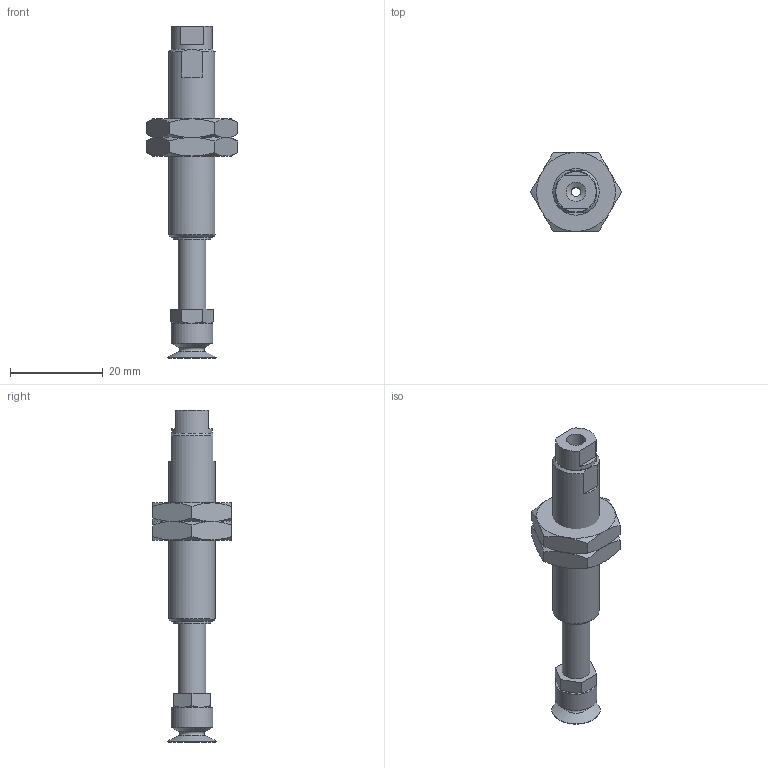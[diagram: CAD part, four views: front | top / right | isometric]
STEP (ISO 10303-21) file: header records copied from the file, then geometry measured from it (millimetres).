
FILE_DESCRIPTION(('STEP AP203'),'1');
FILE_NAME('-LB.stp','2025-10-10T05:04:12',(' '),(' '),'Spatial InterOp 3D',' ',' ');
FILE_SCHEMA(('CONFIG_CONTROL_DESIGN'));
Length unit declared in the file: millimetre
Products named in the file (9): BNAPFTH-10A-15-K-LB; NUT; __; BODY; BNABPATH-10A-15-※-LB; BPAG-10A-※; TN-PS-10-M5; Setting screws-TN-PS-10-M5
Assembly tree (8 placements, depth 3):
  BNABPATH-10A-15-※-LB
    BNAPFTH-10A-15-K-LB
      NUT
      NUT
      __
      BODY
    BPAG-10A-※
    TN-PS-10-M5
      Setting screws-TN-PS-10-M5
Bounding box: 19.63 x 17 x 71.5 mm (x, y, z)
Volume: 5582 mm3; surface area: 4700.7 mm2
Topology: 6 solids, 6 shells, 158 faces, 315 edges, 193 vertices
Faces by surface type: plane 74, cone 41, cylinder 34, torus 9
Full cylindrical faces by diameter (mm): 0.9 x16, 2 x3, 3.9 x1, 4 x2, 4.2 x2, 5 x1, 6 x3, 8 x1, 8.7 x1, 9 x3, 10 x1
Entity records: 4312 total; most frequent: CARTESIAN_POINT 839, DIRECTION 656, ORIENTED_EDGE 508, AXIS2_PLACEMENT_3D 297, EDGE_CURVE 254, EDGE_LOOP 246, FACE_OUTER_BOUND 201, VERTEX_POINT 184
